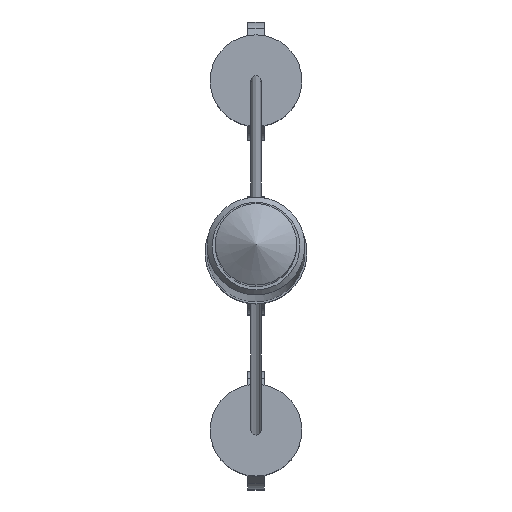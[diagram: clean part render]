
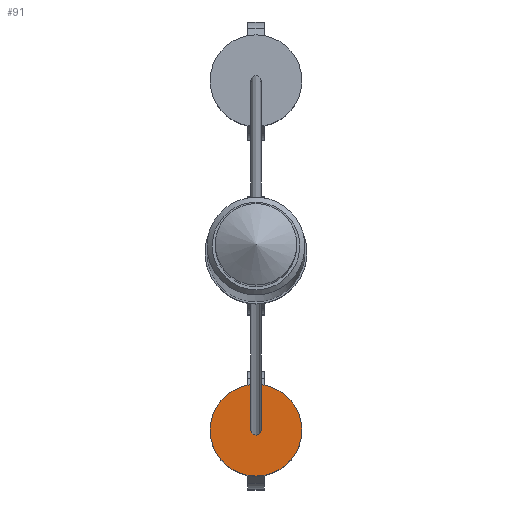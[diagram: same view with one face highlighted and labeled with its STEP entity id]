
A CAD part, top view. The second image highlights one B-rep face of the part: STEP entity #91.
In plain terms, the highlighted planar face has unit normal (0, 0, 1).
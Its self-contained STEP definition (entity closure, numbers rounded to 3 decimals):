
#91 = ADVANCED_FACE ( 'NONE', ( #661, #1941 ), #1022, .T. ) ;
#139 = EDGE_CURVE ( 'NONE', #1122, #1122, #1820, .T. ) ;
#160 = DIRECTION ( 'NONE',  ( 0., 0., 1. ) ) ;
#189 = CARTESIAN_POINT ( 'NONE',  ( 0., -2.046, -246.205 ) ) ;
#212 = CIRCLE ( 'NONE', #1508, 2.25 ) ;
#215 = DIRECTION ( 'NONE',  ( 0., 0., 1. ) ) ;
#324 = EDGE_CURVE ( 'NONE', #757, #757, #212, .T. ) ;
#373 = CARTESIAN_POINT ( 'NONE',  ( 2.25, -2.046, -246.205 ) ) ;
#521 = DIRECTION ( 'NONE',  ( 0., 0., 1. ) ) ;
#661 = FACE_BOUND ( 'NONE', #832, .T. ) ;
#757 = VERTEX_POINT ( 'NONE', #373 ) ;
#832 = EDGE_LOOP ( 'NONE', ( #2395 ) ) ;
#833 = ORIENTED_EDGE ( 'NONE', *, *, #324, .T. ) ;
#916 = CARTESIAN_POINT ( 'NONE',  ( -0.25, -2.046, -246.205 ) ) ;
#1022 = PLANE ( 'NONE',  #1905 ) ;
#1112 = DIRECTION ( 'NONE',  ( 1., 0., 0. ) ) ;
#1122 = VERTEX_POINT ( 'NONE', #916 ) ;
#1468 = CARTESIAN_POINT ( 'NONE',  ( 0., -2.046, -246.205 ) ) ;
#1508 = AXIS2_PLACEMENT_3D ( 'NONE', #189, #160, #1112 ) ;
#1537 = EDGE_LOOP ( 'NONE', ( #833 ) ) ;
#1659 = DIRECTION ( 'NONE',  ( -1., 0., 0. ) ) ;
#1792 = DIRECTION ( 'NONE',  ( 1., 0., 0. ) ) ;
#1820 = CIRCLE ( 'NONE', #2225, 0.25 ) ;
#1905 = AXIS2_PLACEMENT_3D ( 'NONE', #2169, #215, #1792 ) ;
#1941 = FACE_OUTER_BOUND ( 'NONE', #1537, .T. ) ;
#2169 = CARTESIAN_POINT ( 'NONE',  ( 0., -2.046, -246.205 ) ) ;
#2225 = AXIS2_PLACEMENT_3D ( 'NONE', #1468, #521, #1659 ) ;
#2395 = ORIENTED_EDGE ( 'NONE', *, *, #139, .F. ) ;
